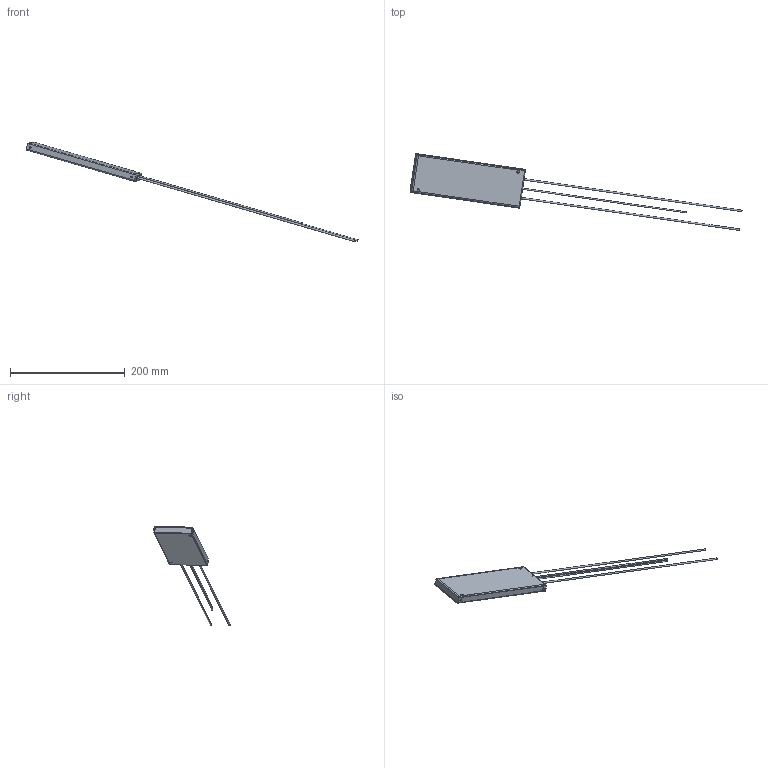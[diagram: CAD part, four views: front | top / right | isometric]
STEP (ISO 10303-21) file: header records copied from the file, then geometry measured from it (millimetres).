
FILE_DESCRIPTION(/* description */ (''),/* implementation_level */ '2;1');
FILE_NAME(/* name */ 'C:\_Vault\Dati\CATALOGO\RFX\RFX1300-600\RFXT1300.stp',/* time_stamp */ '2014-03-25T19:58:55+01:00',/* author */ ('andreac'),/* organization */ (''),/* preprocessor_version */ 'ST-DEVELOPER v15.2',/* originating_system */ 'Autodesk Inventor 2014',/* authorisation */ '');
FILE_SCHEMA (('AUTOMOTIVE_DESIGN { 1 0 10303 214 3 1 1 }'));
Length unit declared in the file: millimetre
Products named in the file (1): RFXT1300
Bounding box: 578.42 x 133.38 x 173.24 mm (x, y, z)
Volume: 42328.5 mm3; surface area: 79753.6 mm2
Topology: 5 solids, 5 shells, 116 faces, 290 edges, 176 vertices
Faces by surface type: plane 80, cylinder 36
Full cylindrical faces by diameter (mm): 2 x2, 2.7 x2, 3 x4, 4.8 x2, 5 x8, 6 x2, 7 x3
Entity records: 3454 total; most frequent: DIRECTION 569, CARTESIAN_POINT 567, ORIENTED_EDGE 524, EDGE_CURVE 257, AXIS2_PLACEMENT_3D 199, LINE 171, VECTOR 171, VERTEX_POINT 165
